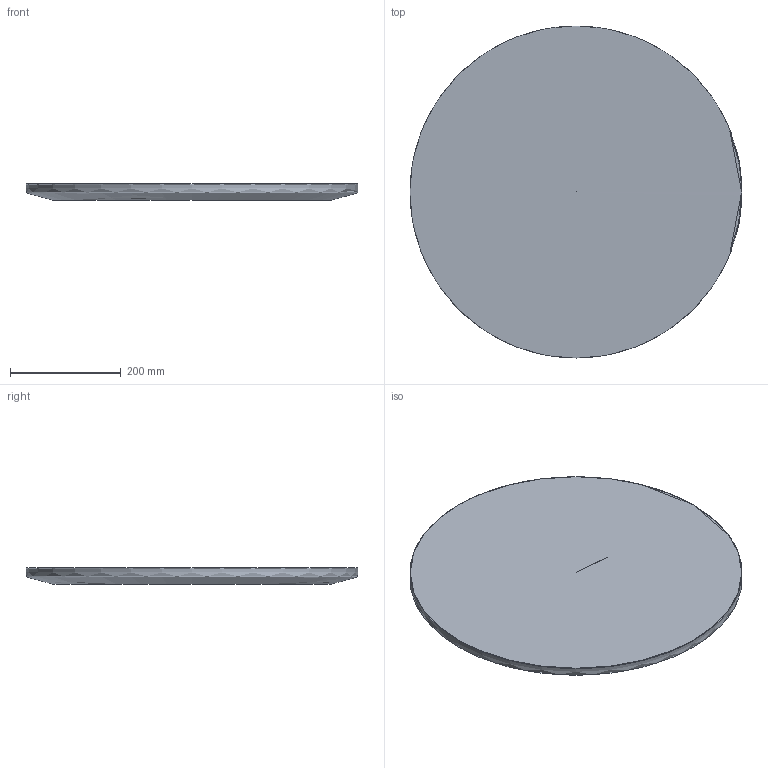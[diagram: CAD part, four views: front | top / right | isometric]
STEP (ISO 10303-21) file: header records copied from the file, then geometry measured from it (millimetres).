
FILE_DESCRIPTION(/* description */ (''),/* implementation_level */ '2;1');
FILE_NAME(/* name */ 'kinoshita_abord_tt009a-Φ600',/* time_stamp */ '2024-07-30T14:55:04+09:00',/* author */ (''),/* organization */ (''),/* preprocessor_version */ 'ST-DEVELOPER v16.5',/* originating_system */ '',/* authorisation */ '');
FILE_SCHEMA (('AUTOMOTIVE_DESIGN'));
Length unit declared in the file: millimetre
Products named in the file (1): Document
Bounding box: 600 x 600 x 29 mm (x, y, z)
Volume: 7529066.7 mm3; surface area: 603645.8 mm2
Topology: 1 solids, 1 shells, 1 faces, 3 edges, 2 vertices
Faces by surface type: bspline 1
Entity records: 187 total; most frequent: CARTESIAN_POINT 154, DIRECTION 4, ORIENTED_EDGE 2, VERTEX_POINT 2, AXIS2_PLACEMENT_3D 2, SHAPE_REPRESENTATION_RELATIONSHIP 1, PRESENTATION_LAYER_ASSIGNMENT 1, MANIFOLD_SOLID_BREP 1
